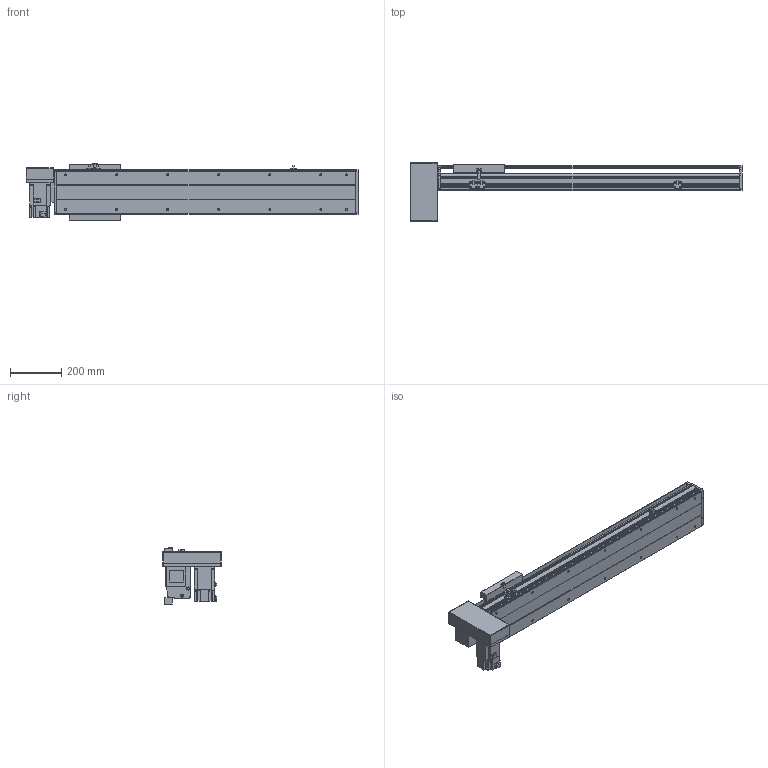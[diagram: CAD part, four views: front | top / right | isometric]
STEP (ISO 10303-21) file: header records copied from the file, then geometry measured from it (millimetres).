
FILE_DESCRIPTION(/* description */ ('STEP AP214'),/* implementation_level */ '2;1');
FILE_NAME(/* name */ 'PBS200-P40-S800-RD-T75-C1-N(0)',/* time_stamp */ '2022-06-11T09:28:44+02:00',/* author */ ('License CC BY-ND 4.0'),/* organization */ ('CADENAS'),/* preprocessor_version */ 'ST-DEVELOPER v18.102',/* originating_system */ 'PARTsolutions',/* authorisation */ ' ');
FILE_SCHEMA (('AUTOMOTIVE_DESIGN {1 0 10303 214 3 1 1}'));
Length unit declared in the file: millimetre
Products named in the file (7): PBS200-P40-S800-RD-T75-C1-N(0); PBS200_sensor; PBS200_plant; PBS200_sliser; T75-p1; PBS200T-RD_motors; PBS200-S800()_body
Assembly tree (8 placements, depth 2):
  PBS200-P40-S800-RD-T75-C1-N(0)
    PBS200_sensor  x3
    PBS200_plant
    PBS200_sliser
    T75-p1
    PBS200T-RD_motors
    PBS200-S800()_body
Bounding box: 1300 x 230 x 221 mm (x, y, z)
Volume: 9988253.9 mm3; surface area: 1622727.1 mm2
Topology: 8 solids, 8 shells, 914 faces, 2364 edges, 1542 vertices
Faces by surface type: plane 572, cylinder 296, cone 46
Full cylindrical faces by diameter (mm): 2.459 x6, 3.242 x4, 4.5 x6, 4.917 x4, 5 x6, 6 x7, 6.6 x8, 6.647 x18, 8 x6, 10 x4, 12 x8, 38 x2, 40 x1, 70 x1
Entity records: 24461 total; most frequent: DIRECTION 4303, CARTESIAN_POINT 4174, ORIENTED_EDGE 3970, EDGE_CURVE 1985, AXIS2_PLACEMENT_3D 1495, VERTEX_POINT 1366, LINE 1313, VECTOR 1313
